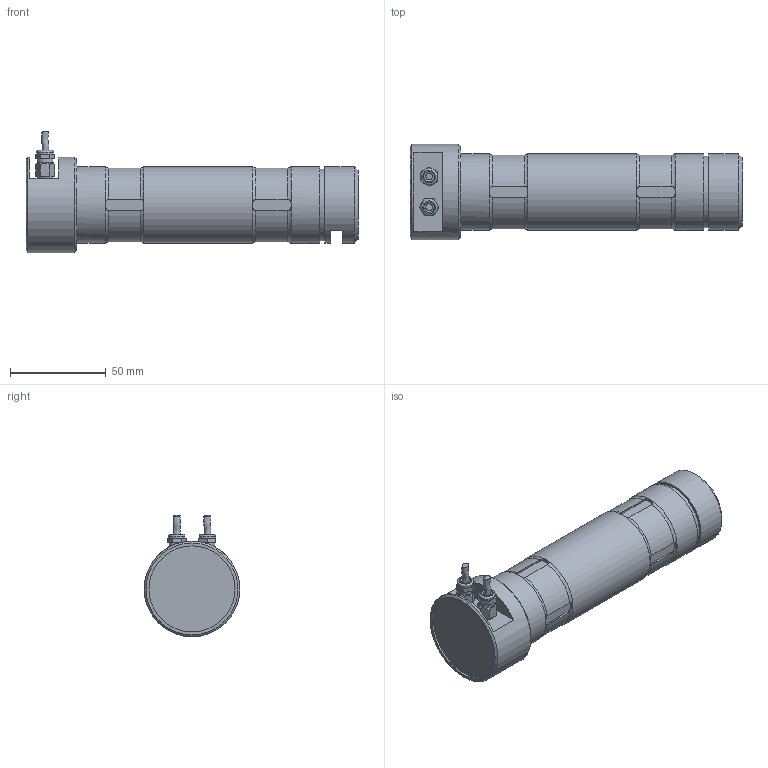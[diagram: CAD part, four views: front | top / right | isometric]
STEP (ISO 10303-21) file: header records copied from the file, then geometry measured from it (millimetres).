
FILE_DESCRIPTION(/* description */ ('Alibre Inc.'),/* implementation_level */ '2;1');
FILE_NAME(/* name */ 'export0',/* time_stamp */ '2016-08-17T18:41:42+02:00',/* author */ (''),/* organization */ (''),/* preprocessor_version */ 'ST-DEVELOPER v14',/* originating_system */ 'Alibre',/* authorisation */ '');
FILE_SCHEMA (('CONFIG_CONTROL_DESIGN'));
Length unit declared in the file: centimetre
Products named in the file (6): ID_1; ID_2; ID_3
Bounding box: 173.5 x 50 x 63.51 mm (x, y, z)
Volume: 226826.9 mm3; surface area: 30119.6 mm2
Topology: 7 solids, 7 shells, 252 faces, 627 edges, 403 vertices
Faces by surface type: plane 130, cylinder 89, torus 22, cone 9, bspline 2
Full cylindrical faces by diameter (mm): 3.5 x2, 4.917 x2, 6 x2, 8 x2, 8.6 x2, 37.5 x1, 40 x4, 45 x1, 50 x1
Entity records: 8532 total; most frequent: CARTESIAN_POINT 3460, ORIENTED_EDGE 992, DIRECTION 746, EDGE_CURVE 496, VERTEX_POINT 331, AXIS2_PLACEMENT_3D 294, VECTOR 269, LINE 269
